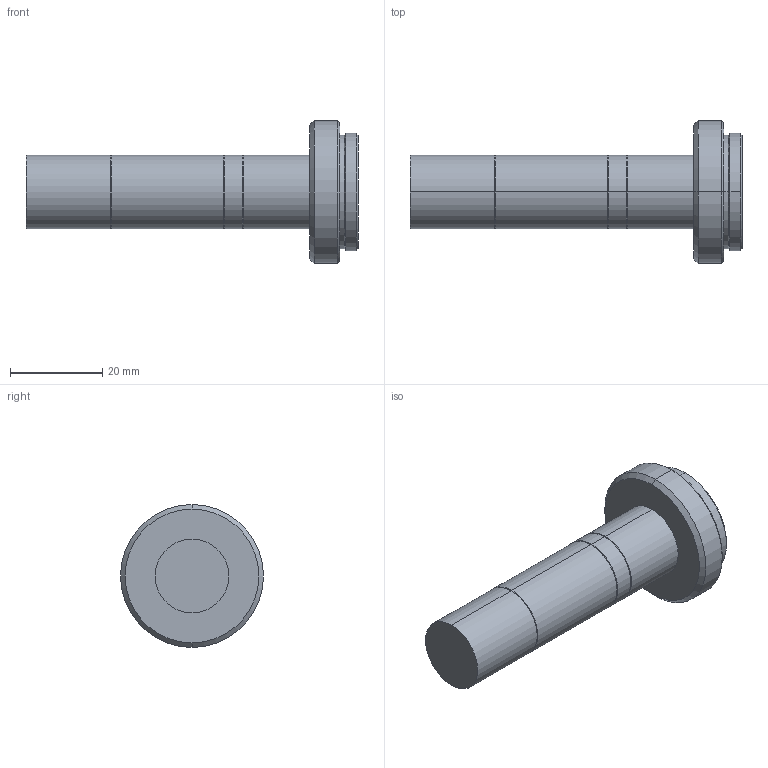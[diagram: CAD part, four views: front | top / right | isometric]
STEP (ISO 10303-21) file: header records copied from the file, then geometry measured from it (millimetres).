
FILE_DESCRIPTION (( 'STEP AP203' ), '1' );
FILE_NAME ('VS-TC4-65.STEP', '2016-07-28T23:55:39', ( 'miura_vst' ), ( '' ), 'SwSTEP 2.0', 'SolidWorks 2016', '' );
FILE_SCHEMA (( 'CONFIG_CONTROL_DESIGN' ));
Length unit declared in the file: millimetre
Products named in the file (1): VS-TC4-65
Bounding box: 72 x 31 x 31 mm (x, y, z)
Volume: 19193 mm3; surface area: 5500.8 mm2
Topology: 1 solids, 1 shells, 38 faces, 74 edges, 40 vertices
Faces by surface type: cone 20, cylinder 14, plane 4
Entity records: 1031 total; most frequent: DIRECTION 192, CARTESIAN_POINT 153, ORIENTED_EDGE 148, AXIS2_PLACEMENT_3D 79, EDGE_CURVE 74, VERTEX_POINT 40, EDGE_LOOP 40, CIRCLE 40
